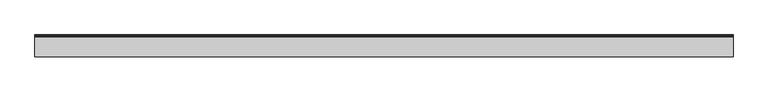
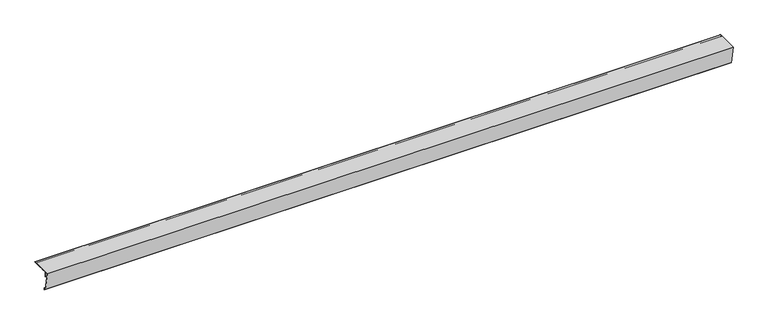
"""IFC4 building model written with IfcOpenShell, lengths in millimetres: proxy geometry, ATELIERS 3S_PARISIENNE 1000_VENTILATED SINGLE ROOF RIDGE : ATELIERS 3S_PARISIENNE 1000_VENTILATED SINGLE ROOF RIDGE."""

from ifc_helpers import new_model, si_unit, point, frame, frame_2d, origin, place, context, project, spatial, polyline, circle_curve, trimmed, segment, composite_curve, outline, extrude, source, transform, mapped, element, save


def generic_models_c798cfeb(model_context):
    return source(origin(), model_context, "Body", "SweptSolid", [
        extrude(outline(polyline([(21.4470692, -45.6836511), (21.4470692, -0.6836511), (61.4470692, -0.6836511), (61.4470692, -1.6836511), (22.4470692, -1.6836511), (22.4470692, -45.6836511), (21.4470692, -45.6836511)])), frame((0.0, 0.0, 0.0), z_axis=(1.0, 0.0, 0.0), x_axis=(0.0, 1.0, 0.0)), (0.0, 0.0, 1.0), 5661.0),
        extrude(outline(composite_curve([segment(trimmed(circle_curve(frame_2d((165.9940784, -0.6836511)), 1.0), [point((165.9940784, 0.3163489))], [point((165.9940784, -1.6836511))], False, "CARTESIAN"), True, "CONTINUOUS"), segment(polyline([(165.9940784, -1.6836511), (150.9940784, -1.6836511)]), True, "CONTINUOUS"), segment(trimmed(circle_curve(frame_2d((150.9940784, -1.1836511)), 0.5), [point((150.9940784, -1.6836511))], [point((150.9940784, -0.6836511))], False, "CARTESIAN"), True, "CONTINUOUS"), segment(polyline([(150.9940784, -0.6836511), (-7.814168, -0.6836511), (18.7207055, -151.1703969), (33.4928218, -148.5656742), (36.2711927, -164.3225983), (35.2863849, -164.4962465), (32.6816622, -149.7241302), (17.909546, -152.3288528), (-9.0059216, 0.3163489), (165.9940784, 0.3163489)]), True, "CONTINUOUS")], self_intersect=False)), frame((0.0, 0.0, 0.0), z_axis=(1.0, 0.0, 0.0), x_axis=(0.0, 1.0, 0.0)), (0.0, 0.0, 1.0), 5661.0),
    ])


if __name__ == "__main__":
    model = new_model("IFC4")
    model_context = context("Model", 3, world=origin())
    ifc_project = project(units=[si_unit("LENGTHUNIT", "METRE", prefix="MILLI")], contexts=[model_context])
    site = spatial("IfcSite", under=ifc_project)
    building = spatial("IfcBuilding", under=site)
    placement = place(None, origin())
    generic_models_shape = generic_models_c798cfeb(model_context)
    element("IfcBuildingElementProxy", 1, Name="ATELIERS 3S_PARISIENNE 1000_VENTILATED SINGLE ROOF RIDGE : ATELIERS 3S_PARISIENNE 1000_VENTILATED SINGLE ROOF RIDGE", ObjectType="ATELIERS 3S_PARISIENNE 1000_VENTILATED SINGLE ROOF RIDGE : ATELIERS 3S_PARISIENNE 1000_VENTILATED SINGLE ROOF RIDGE", at=placement, inside=building, context=model_context, shape_type="MappedRepresentation", body=[
        mapped(generic_models_shape, transform((0.0, 0.0, 0.0), x_axis=(1.0, 0.0, 0.0), y_axis=(0.0, 1.0, 0.0), z_axis=(0.0, 0.0, 1.0))),
    ])
    save(model, "model.ifc")
